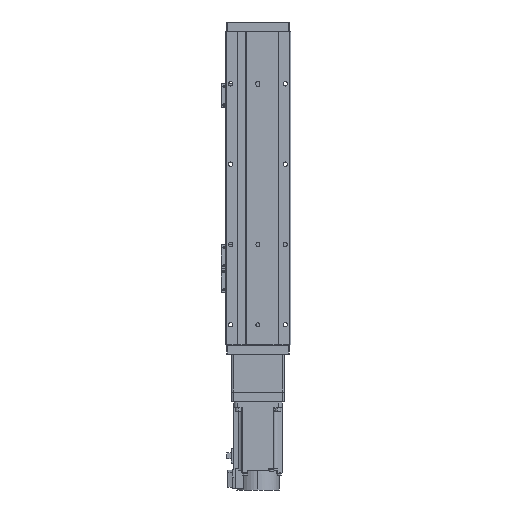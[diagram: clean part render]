
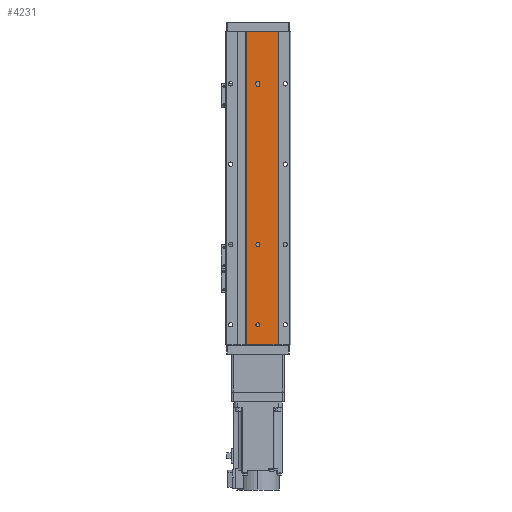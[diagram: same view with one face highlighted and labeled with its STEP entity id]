
A CAD part, front view. The second image highlights one B-rep face of the part: STEP entity #4231.
In plain terms, the highlighted planar face has unit normal (0, -1, 0).
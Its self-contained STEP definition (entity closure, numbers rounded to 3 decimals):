
#356 = VERTEX_POINT ( 'NONE', #13020 ) ;
#678 = VERTEX_POINT ( 'NONE', #6716 ) ;
#888 = ORIENTED_EDGE ( 'NONE', *, *, #9588, .F. ) ;
#1929 = DIRECTION ( 'NONE',  ( 0., 0., -1. ) ) ;
#2175 = CIRCLE ( 'NONE', #23847, 2.5 ) ;
#2493 = CARTESIAN_POINT ( 'NONE',  ( 14., 1., 195. ) ) ;
#2800 = ORIENTED_EDGE ( 'NONE', *, *, #28136, .T. ) ;
#3804 = EDGE_CURVE ( 'NONE', #29488, #27086, #19041, .T. ) ;
#4228 = AXIS2_PLACEMENT_3D ( 'NONE', #23899, #35705, #9201 ) ;
#4231 = ADVANCED_FACE ( 'NONE', ( #10367, #22175, #33985, #7457 ), #19279, .F. ) ;
#4434 = ORIENTED_EDGE ( 'NONE', *, *, #29091, .F. ) ;
#4544 = DIRECTION ( 'NONE',  ( 0., 1., 0. ) ) ;
#5028 = DIRECTION ( 'NONE',  ( 1., 0., 0. ) ) ;
#5213 = DIRECTION ( 'NONE',  ( 0., 0., -1. ) ) ;
#5845 = EDGE_CURVE ( 'NONE', #678, #19147, #9887, .T. ) ;
#5850 = CARTESIAN_POINT ( 'NONE',  ( -25., 1., -195. ) ) ;
#6716 = CARTESIAN_POINT ( 'NONE',  ( -2.5, 1., -131. ) ) ;
#7222 = EDGE_CURVE ( 'NONE', #17565, #7357, #7827, .T. ) ;
#7284 = AXIS2_PLACEMENT_3D ( 'NONE', #13710, #25503, #37310 ) ;
#7357 = VERTEX_POINT ( 'NONE', #8607 ) ;
#7457 = FACE_OUTER_BOUND ( 'NONE', #7481, .T. ) ;
#7481 = EDGE_LOOP ( 'NONE', ( #2800, #30648, #28671, #30717 ) ) ;
#7540 = VERTEX_POINT ( 'NONE', #12634 ) ;
#7815 = DIRECTION ( 'NONE',  ( 0., -1., 0. ) ) ;
#7827 = LINE ( 'NONE', #19645, #19891 ) ;
#8088 = CARTESIAN_POINT ( 'NONE',  ( 0., 1., -129. ) ) ;
#8607 = CARTESIAN_POINT ( 'NONE',  ( -25., 1., -195. ) ) ;
#9183 = AXIS2_PLACEMENT_3D ( 'NONE', #31079, #4544, #16369 ) ;
#9201 = DIRECTION ( 'NONE',  ( 0., 0., -1. ) ) ;
#9588 = EDGE_CURVE ( 'NONE', #27086, #29488, #28878, .T. ) ;
#9887 = CIRCLE ( 'NONE', #31529, 2.5 ) ;
#10188 = CARTESIAN_POINT ( 'NONE',  ( 0., 1., -133.5 ) ) ;
#10367 = FACE_BOUND ( 'NONE', #20226, .T. ) ;
#10425 = VECTOR ( 'NONE', #5028, 1000. ) ;
#10501 = VERTEX_POINT ( 'NONE', #37570 ) ;
#10633 = LINE ( 'NONE', #22444, #11863 ) ;
#10925 = CARTESIAN_POINT ( 'NONE',  ( -2.5, 1., -129. ) ) ;
#11863 = VECTOR ( 'NONE', #34241, 1000. ) ;
#12067 = ORIENTED_EDGE ( 'NONE', *, *, #3804, .F. ) ;
#12195 = AXIS2_PLACEMENT_3D ( 'NONE', #19963, #31745, #5213 ) ;
#12427 = CARTESIAN_POINT ( 'NONE',  ( 0., 1., 70. ) ) ;
#12486 = CARTESIAN_POINT ( 'NONE',  ( -2.5, 1., -129. ) ) ;
#12634 = CARTESIAN_POINT ( 'NONE',  ( 14., 1., -195. ) ) ;
#13020 = CARTESIAN_POINT ( 'NONE',  ( 14., 1., 195. ) ) ;
#13111 = EDGE_CURVE ( 'NONE', #34482, #678, #37440, .T. ) ;
#13710 = CARTESIAN_POINT ( 'NONE',  ( 0., 1., 170. ) ) ;
#13984 = EDGE_CURVE ( 'NONE', #14481, #34482, #31568, .T. ) ;
#14344 = DIRECTION ( 'NONE',  ( 0., 0., -1. ) ) ;
#14481 = VERTEX_POINT ( 'NONE', #35324 ) ;
#15334 = EDGE_CURVE ( 'NONE', #17565, #356, #19763, .T. ) ;
#15571 = CARTESIAN_POINT ( 'NONE',  ( 0., 1., 67.5 ) ) ;
#16369 = DIRECTION ( 'NONE',  ( 0., 0., 1. ) ) ;
#16673 = CARTESIAN_POINT ( 'NONE',  ( 0., 1., -131. ) ) ;
#16837 = AXIS2_PLACEMENT_3D ( 'NONE', #12427, #24228, #36030 ) ;
#17565 = VERTEX_POINT ( 'NONE', #28173 ) ;
#17664 = DIRECTION ( 'NONE',  ( 1., 0., 0. ) ) ;
#18006 = VECTOR ( 'NONE', #22742, 1000. ) ;
#18394 = EDGE_CURVE ( 'NONE', #24044, #14481, #10633, .T. ) ;
#19041 = CIRCLE ( 'NONE', #7284, 2.5 ) ;
#19147 = VERTEX_POINT ( 'NONE', #10188 ) ;
#19279 = PLANE ( 'NONE',  #9183 ) ;
#19638 = DIRECTION ( 'NONE',  ( 0., 0., -1. ) ) ;
#19645 = CARTESIAN_POINT ( 'NONE',  ( -25., 1., 195. ) ) ;
#19763 = LINE ( 'NONE', #31555, #10425 ) ;
#19834 = AXIS2_PLACEMENT_3D ( 'NONE', #8088, #19909, #31691 ) ;
#19891 = VECTOR ( 'NONE', #31440, 1000. ) ;
#19909 = DIRECTION ( 'NONE',  ( 0., -1., 0. ) ) ;
#19963 = CARTESIAN_POINT ( 'NONE',  ( 0., 1., 170. ) ) ;
#20226 = EDGE_LOOP ( 'NONE', ( #22577, #23304, #37403, #21551, #23533 ) ) ;
#20959 = CIRCLE ( 'NONE', #4228, 2.5 ) ;
#20980 = ORIENTED_EDGE ( 'NONE', *, *, #21248, .F. ) ;
#21248 = EDGE_CURVE ( 'NONE', #10501, #29182, #33522, .T. ) ;
#21547 = EDGE_CURVE ( 'NONE', #356, #7540, #29039, .T. ) ;
#21551 = ORIENTED_EDGE ( 'NONE', *, *, #31927, .F. ) ;
#22175 = FACE_BOUND ( 'NONE', #22312, .T. ) ;
#22312 = EDGE_LOOP ( 'NONE', ( #12067, #888 ) ) ;
#22444 = CARTESIAN_POINT ( 'NONE',  ( 2.5, 1., -129. ) ) ;
#22577 = ORIENTED_EDGE ( 'NONE', *, *, #13111, .F. ) ;
#22623 = CARTESIAN_POINT ( 'NONE',  ( 0., 1., 172.5 ) ) ;
#22742 = DIRECTION ( 'NONE',  ( 0., 0., -1. ) ) ;
#23304 = ORIENTED_EDGE ( 'NONE', *, *, #13984, .F. ) ;
#23533 = ORIENTED_EDGE ( 'NONE', *, *, #5845, .F. ) ;
#23784 = EDGE_LOOP ( 'NONE', ( #4434, #20980 ) ) ;
#23847 = AXIS2_PLACEMENT_3D ( 'NONE', #16673, #28478, #1929 ) ;
#23899 = CARTESIAN_POINT ( 'NONE',  ( 0., 1., 70. ) ) ;
#24044 = VERTEX_POINT ( 'NONE', #32371 ) ;
#24228 = DIRECTION ( 'NONE',  ( 0., -1., 0. ) ) ;
#25503 = DIRECTION ( 'NONE',  ( 0., -1., 0. ) ) ;
#27086 = VERTEX_POINT ( 'NONE', #22623 ) ;
#28136 = EDGE_CURVE ( 'NONE', #7357, #7540, #32381, .T. ) ;
#28173 = CARTESIAN_POINT ( 'NONE',  ( -25., 1., 195. ) ) ;
#28478 = DIRECTION ( 'NONE',  ( 0., -1., 0. ) ) ;
#28671 = ORIENTED_EDGE ( 'NONE', *, *, #15334, .F. ) ;
#28878 = CIRCLE ( 'NONE', #12195, 2.5 ) ;
#29039 = LINE ( 'NONE', #2493, #32310 ) ;
#29091 = EDGE_CURVE ( 'NONE', #29182, #10501, #20959, .T. ) ;
#29182 = VERTEX_POINT ( 'NONE', #15571 ) ;
#29488 = VERTEX_POINT ( 'NONE', #32563 ) ;
#30648 = ORIENTED_EDGE ( 'NONE', *, *, #21547, .F. ) ;
#30717 = ORIENTED_EDGE ( 'NONE', *, *, #7222, .T. ) ;
#31079 = CARTESIAN_POINT ( 'NONE',  ( -25., 1., 195. ) ) ;
#31440 = DIRECTION ( 'NONE',  ( 0., 0., -1. ) ) ;
#31529 = AXIS2_PLACEMENT_3D ( 'NONE', #34344, #7815, #19638 ) ;
#31555 = CARTESIAN_POINT ( 'NONE',  ( -25., 1., 195. ) ) ;
#31568 = CIRCLE ( 'NONE', #19834, 2.5 ) ;
#31691 = DIRECTION ( 'NONE',  ( 0., 0., -1. ) ) ;
#31745 = DIRECTION ( 'NONE',  ( 0., -1., 0. ) ) ;
#31927 = EDGE_CURVE ( 'NONE', #19147, #24044, #2175, .T. ) ;
#32310 = VECTOR ( 'NONE', #14344, 1000. ) ;
#32371 = CARTESIAN_POINT ( 'NONE',  ( 2.5, 1., -131. ) ) ;
#32381 = LINE ( 'NONE', #5850, #36315 ) ;
#32563 = CARTESIAN_POINT ( 'NONE',  ( 0., 1., 167.5 ) ) ;
#33522 = CIRCLE ( 'NONE', #16837, 2.5 ) ;
#33985 = FACE_BOUND ( 'NONE', #23784, .T. ) ;
#34241 = DIRECTION ( 'NONE',  ( 0., 0., 1. ) ) ;
#34344 = CARTESIAN_POINT ( 'NONE',  ( 0., 1., -131. ) ) ;
#34482 = VERTEX_POINT ( 'NONE', #12486 ) ;
#35324 = CARTESIAN_POINT ( 'NONE',  ( 2.5, 1., -129. ) ) ;
#35705 = DIRECTION ( 'NONE',  ( 0., -1., 0. ) ) ;
#36030 = DIRECTION ( 'NONE',  ( 0., 0., -1. ) ) ;
#36315 = VECTOR ( 'NONE', #17664, 1000. ) ;
#37310 = DIRECTION ( 'NONE',  ( 0., 0., -1. ) ) ;
#37403 = ORIENTED_EDGE ( 'NONE', *, *, #18394, .F. ) ;
#37440 = LINE ( 'NONE', #10925, #18006 ) ;
#37570 = CARTESIAN_POINT ( 'NONE',  ( 0., 1., 72.5 ) ) ;
